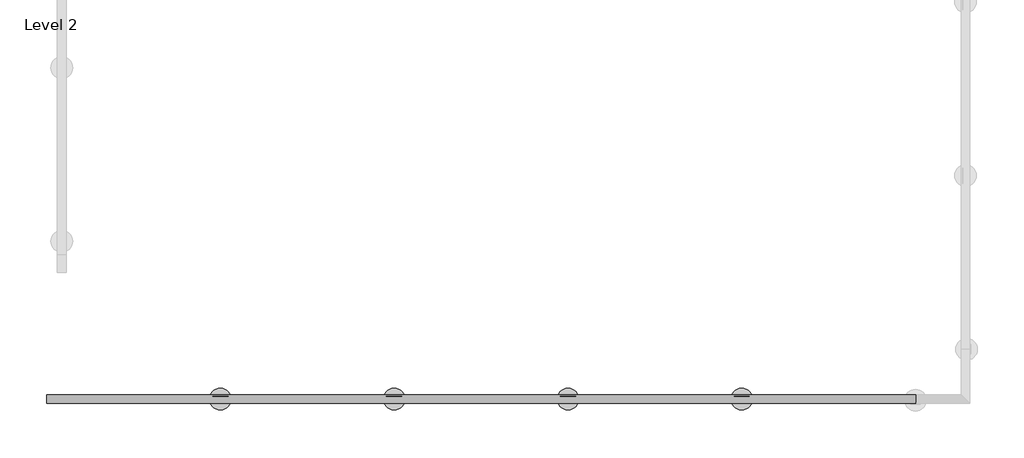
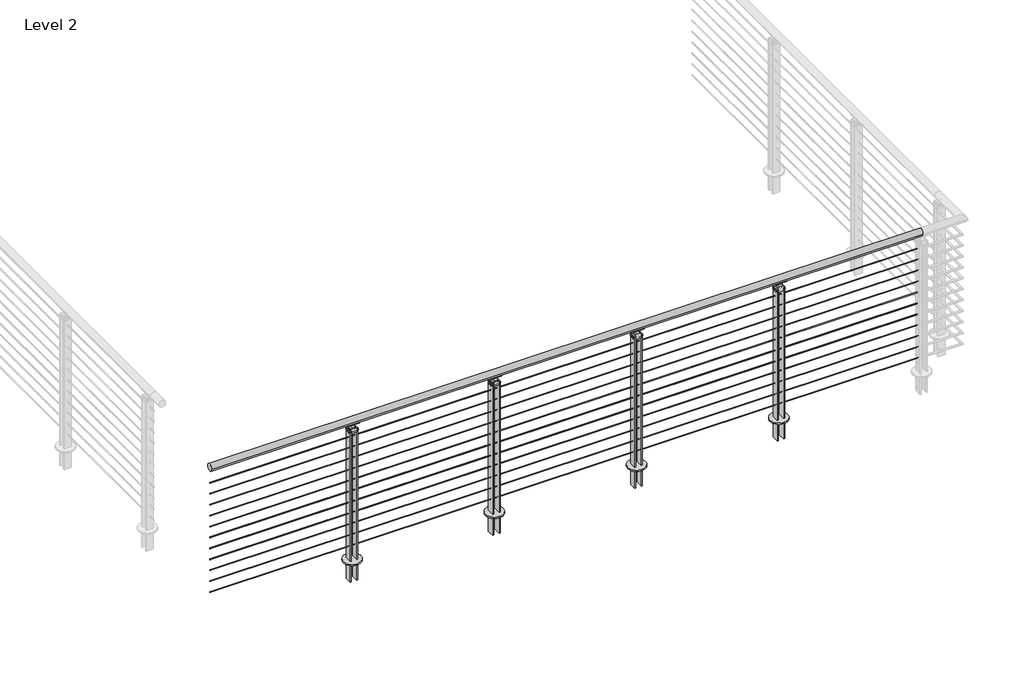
# One storey, part 28 of 31: 1 railing.
"""IFC4 building model written with IfcOpenShell, lengths in millimetres."""

from ifc_helpers import new_model, si_unit, point, frame, frame_2d, origin, place, context, project, spatial, polyline, circle_curve, trimmed, segment, composite_curve, outline, extrude, element, save
from ifc_brep_helpers import plane_surface, cylinder_surface, revolved_surface, advanced_brep

model = new_model("IFC4")

# Units and contexts
model_context = context("Model", 3, world=origin())
ifc_project = project(units=[si_unit("LENGTHUNIT", "METRE", prefix="MILLI")], contexts=[model_context])

# Site, building, storey
site = spatial("IfcSite", under=ifc_project)
building = spatial("IfcBuilding", under=site)
storey = spatial("IfcBuildingStorey", under=building, Name="Level 2", Elevation=3048.0)

# Railing
placement = place(None, origin())
element("IfcRailing", 1, ObjectType="VIVA-BLADE-Cable-Core Mount-Straight", at=placement, inside=storey, context=model_context, shape_type="SolidModel", body=[
    extrude(outline(composite_curve([segment(trimmed(circle_curve(frame_2d((-52104.7426165, 4102.1)), 25.4), [point((-52130.1426165, 4102.1))], [point((-52079.3426165, 4102.1))], False, "CARTESIAN"), True, "CONTINUOUS"), segment(trimmed(circle_curve(frame_2d((-52104.7426165, 4102.1)), 25.4), [point((-52079.3426165, 4102.1))], [point((-52130.1426165, 4102.1))], False, "CARTESIAN"), True, "CONTINUOUS")], self_intersect=False)), frame((65793.0310647, 0.0, 0.0), z_axis=(1.0, 0.0, 0.0), x_axis=(0.0, 1.0, 0.0)), (0.0, 0.0, 1.0), 5080.0),
    extrude(outline(composite_curve([segment(trimmed(circle_curve(frame_2d((-52104.7426165, 3985.4124)), 2.3876), [point((-52102.3550165, 3985.4124))], [point((-52107.1302165, 3985.4124))], False, "CARTESIAN"), True, "CONTINUOUS"), segment(trimmed(circle_curve(frame_2d((-52104.7426165, 3985.4124)), 2.3876), [point((-52107.1302165, 3985.4124))], [point((-52102.3550165, 3985.4124))], False, "CARTESIAN"), True, "CONTINUOUS")], self_intersect=False)), frame((65793.0310647, 0.0, 0.0), z_axis=(1.0, 0.0, 0.0), x_axis=(0.0, 1.0, 0.0)), (0.0, 0.0, 1.0), 5080.0),
    extrude(outline(composite_curve([segment(trimmed(circle_curve(frame_2d((-52104.7426165, 3902.8624)), 2.3876), [point((-52102.3550165, 3902.8624))], [point((-52107.1302165, 3902.8624))], False, "CARTESIAN"), True, "CONTINUOUS"), segment(trimmed(circle_curve(frame_2d((-52104.7426165, 3902.8624)), 2.3876), [point((-52107.1302165, 3902.8624))], [point((-52102.3550165, 3902.8624))], False, "CARTESIAN"), True, "CONTINUOUS")], self_intersect=False)), frame((65793.0310647, 0.0, 0.0), z_axis=(1.0, 0.0, 0.0), x_axis=(0.0, 1.0, 0.0)), (0.0, 0.0, 1.0), 5080.0),
    extrude(outline(composite_curve([segment(trimmed(circle_curve(frame_2d((-52104.7426165, 3820.3124)), 2.3876), [point((-52102.3550165, 3820.3124))], [point((-52107.1302165, 3820.3124))], False, "CARTESIAN"), True, "CONTINUOUS"), segment(trimmed(circle_curve(frame_2d((-52104.7426165, 3820.3124)), 2.3876), [point((-52107.1302165, 3820.3124))], [point((-52102.3550165, 3820.3124))], False, "CARTESIAN"), True, "CONTINUOUS")], self_intersect=False)), frame((65793.0310647, 0.0, 0.0), z_axis=(1.0, 0.0, 0.0), x_axis=(0.0, 1.0, 0.0)), (0.0, 0.0, 1.0), 5080.0),
    extrude(outline(composite_curve([segment(trimmed(circle_curve(frame_2d((-52104.7426165, 3737.7624)), 2.3876), [point((-52102.3550165, 3737.7624))], [point((-52107.1302165, 3737.7624))], False, "CARTESIAN"), True, "CONTINUOUS"), segment(trimmed(circle_curve(frame_2d((-52104.7426165, 3737.7624)), 2.3876), [point((-52107.1302165, 3737.7624))], [point((-52102.3550165, 3737.7624))], False, "CARTESIAN"), True, "CONTINUOUS")], self_intersect=False)), frame((65793.0310647, 0.0, 0.0), z_axis=(1.0, 0.0, 0.0), x_axis=(0.0, 1.0, 0.0)), (0.0, 0.0, 1.0), 5080.0),
    extrude(outline(composite_curve([segment(trimmed(circle_curve(frame_2d((-52104.7426165, 3655.2124)), 2.3876), [point((-52102.3550165, 3655.2124))], [point((-52107.1302165, 3655.2124))], False, "CARTESIAN"), True, "CONTINUOUS"), segment(trimmed(circle_curve(frame_2d((-52104.7426165, 3655.2124)), 2.3876), [point((-52107.1302165, 3655.2124))], [point((-52102.3550165, 3655.2124))], False, "CARTESIAN"), True, "CONTINUOUS")], self_intersect=False)), frame((65793.0310647, 0.0, 0.0), z_axis=(1.0, 0.0, 0.0), x_axis=(0.0, 1.0, 0.0)), (0.0, 0.0, 1.0), 5080.0),
    extrude(outline(composite_curve([segment(trimmed(circle_curve(frame_2d((-52104.7426165, 3572.6624)), 2.3876), [point((-52102.3550165, 3572.6624))], [point((-52107.1302165, 3572.6624))], False, "CARTESIAN"), True, "CONTINUOUS"), segment(trimmed(circle_curve(frame_2d((-52104.7426165, 3572.6624)), 2.3876), [point((-52107.1302165, 3572.6624))], [point((-52102.3550165, 3572.6624))], False, "CARTESIAN"), True, "CONTINUOUS")], self_intersect=False)), frame((65793.0310647, 0.0, 0.0), z_axis=(1.0, 0.0, 0.0), x_axis=(0.0, 1.0, 0.0)), (0.0, 0.0, 1.0), 5080.0),
    extrude(outline(composite_curve([segment(trimmed(circle_curve(frame_2d((-52104.7426165, 3490.1124)), 2.3876), [point((-52102.3550165, 3490.1124))], [point((-52107.1302165, 3490.1124))], False, "CARTESIAN"), True, "CONTINUOUS"), segment(trimmed(circle_curve(frame_2d((-52104.7426165, 3490.1124)), 2.3876), [point((-52107.1302165, 3490.1124))], [point((-52102.3550165, 3490.1124))], False, "CARTESIAN"), True, "CONTINUOUS")], self_intersect=False)), frame((65793.0310647, 0.0, 0.0), z_axis=(1.0, 0.0, 0.0), x_axis=(0.0, 1.0, 0.0)), (0.0, 0.0, 1.0), 5080.0),
    extrude(outline(composite_curve([segment(trimmed(circle_curve(frame_2d((-52104.7426165, 3407.5624)), 2.3876), [point((-52102.3550165, 3407.5624))], [point((-52107.1302165, 3407.5624))], False, "CARTESIAN"), True, "CONTINUOUS"), segment(trimmed(circle_curve(frame_2d((-52104.7426165, 3407.5624)), 2.3876), [point((-52107.1302165, 3407.5624))], [point((-52102.3550165, 3407.5624))], False, "CARTESIAN"), True, "CONTINUOUS")], self_intersect=False)), frame((65793.0310647, 0.0, 0.0), z_axis=(1.0, 0.0, 0.0), x_axis=(0.0, 1.0, 0.0)), (0.0, 0.0, 1.0), 5080.0),
    extrude(outline(composite_curve([segment(trimmed(circle_curve(frame_2d((-52104.7426165, 3325.0124)), 2.3876), [point((-52102.3550165, 3325.0124))], [point((-52107.1302165, 3325.0124))], False, "CARTESIAN"), True, "CONTINUOUS"), segment(trimmed(circle_curve(frame_2d((-52104.7426165, 3325.0124)), 2.3876), [point((-52107.1302165, 3325.0124))], [point((-52102.3550165, 3325.0124))], False, "CARTESIAN"), True, "CONTINUOUS")], self_intersect=False)), frame((65793.0310647, 0.0, 0.0), z_axis=(1.0, 0.0, 0.0), x_axis=(0.0, 1.0, 0.0)), (0.0, 0.0, 1.0), 5080.0),
    extrude(outline(composite_curve([segment(trimmed(circle_curve(frame_2d((-52104.7426165, 3242.4624)), 2.3876), [point((-52102.3550165, 3242.4624))], [point((-52107.1302165, 3242.4624))], False, "CARTESIAN"), True, "CONTINUOUS"), segment(trimmed(circle_curve(frame_2d((-52104.7426165, 3242.4624)), 2.3876), [point((-52107.1302165, 3242.4624))], [point((-52102.3550165, 3242.4624))], False, "CARTESIAN"), True, "CONTINUOUS")], self_intersect=False)), frame((65793.0310647, 0.0, 0.0), z_axis=(1.0, 0.0, 0.0), x_axis=(0.0, 1.0, 0.0)), (0.0, 0.0, 1.0), 5080.0),
    extrude(outline(composite_curve([segment(trimmed(circle_curve(frame_2d((-52104.7426165, 3159.9124)), 2.3876), [point((-52102.3550165, 3159.9124))], [point((-52107.1302165, 3159.9124))], False, "CARTESIAN"), True, "CONTINUOUS"), segment(trimmed(circle_curve(frame_2d((-52104.7426165, 3159.9124)), 2.3876), [point((-52107.1302165, 3159.9124))], [point((-52102.3550165, 3159.9124))], False, "CARTESIAN"), True, "CONTINUOUS")], self_intersect=False)), frame((65793.0310647, 0.0, 0.0), z_axis=(1.0, 0.0, 0.0), x_axis=(0.0, 1.0, 0.0)), (0.0, 0.0, 1.0), 5080.0),
    extrude(outline(polyline([(69829.956229, -52079.3428199), (69837.9810647, -52079.3428199), (69837.9810647, -52130.1451445), (69829.956229, -52130.1451445), (69829.956229, -52079.3428199)])), frame((0.0, 0.0, 2901.95), z_axis=(0.0, 0.0, 1.0), x_axis=(1.0, 0.0, 0.0)), (0.0, 0.0, 1.0), 146.05),
    extrude(outline(polyline([(69876.0810267, -52079.3428199), (69884.0820267, -52079.3428199), (69884.0820267, -52130.1451445), (69876.0810267, -52130.1451445), (69876.0810267, -52079.3428199)])), frame((0.0, 0.0, 2901.95), z_axis=(0.0, 0.0, 1.0), x_axis=(1.0, 0.0, 0.0)), (0.0, 0.0, 1.0), 146.05),
    extrude(outline(composite_curve([segment(trimmed(circle_curve(frame_2d((69857.0191279, -52104.7426165)), 63.4988059), [point((69857.0191279, -52168.2414225))], [point((69857.0191279, -52041.2438106))], False, "CARTESIAN"), True, "CONTINUOUS"), segment(trimmed(circle_curve(frame_2d((69857.0191279, -52104.7426165)), 63.4988059), [point((69857.0191279, -52041.2438106))], [point((69857.0191279, -52168.2414225))], False, "CARTESIAN"), True, "CONTINUOUS")], self_intersect=False)), frame((0.0, 0.0, 3048.0), z_axis=(0.0, 0.0, 1.0), x_axis=(1.0, 0.0, 0.0)), (0.0, 0.0, 1.0), 9.525),
    advanced_brep(
    [(69902.2684647, -52091.9824929, 4080.0967655), (69902.2684647, -52116.8545574, 4079.9535285), (69902.2684647, -52119.6634877, 4075.1267745), (69902.2684647, -52088.1465955, 4075.707533), (69811.7936647, -52091.9824929, 4080.0967655), (69811.7936647, -52088.1465955, 4075.707533), (69811.7936647, -52119.7772811, 4075.1893964), (69811.7936647, -52116.9415296, 4080.0018447)],
    [
        (0, 1, circle_curve(frame((69902.2684647, -52104.5462958, 4102.2115898), z_axis=(-1.0, 0.0, 0.0), x_axis=(0.0, 1.0, 0.0)), 25.4345159)),
        (1, 2, circle_curve(frame((69902.2684647, -52118.1861827, 4077.4993599), z_axis=(1.0, 0.0, 0.0), x_axis=(0.0, 1.0, 0.0)), 2.7949225)),
        (2, 3, circle_curve(frame((69902.2684647, -52104.4128327, 4102.9742164), z_axis=(1.0, 0.0, 0.0), x_axis=(0.0, 1.0, 0.0)), 31.75)),
        (3, 0, circle_curve(frame((69902.2684647, -52090.4349352, 4077.5784521), z_axis=(1.0, 0.0, 0.0), x_axis=(0.0, 1.0, 0.0)), 2.9558141)),
        (4, 5, circle_curve(frame((69811.7936647, -52090.4349352, 4077.5784521), z_axis=(-1.0, 0.0, 0.0), x_axis=(0.0, 1.0, 0.0)), 2.9558141)),
        (5, 6, circle_curve(frame((69811.7936647, -52104.4128327, 4102.9742164), z_axis=(-1.0, 0.0, 0.0), x_axis=(0.0, 1.0, 0.0)), 31.75)),
        (6, 7, circle_curve(frame((69811.7936647, -52118.1861827, 4077.4993599), z_axis=(-1.0, 0.0, 0.0), x_axis=(0.0, 1.0, 0.0)), 2.7949225)),
        (7, 4, circle_curve(frame((69811.7936647, -52104.5462958, 4102.2115898), z_axis=(1.0, 0.0, 0.0), x_axis=(0.0, 1.0, 0.0)), 25.4345159)),
        (0, 4),
        (7, 1),
        (6, 2),
        (5, 3),
    ],
    [
        plane_surface(frame((69902.2684647, -52079.1117799, 4102.2115898), z_axis=(1.0, 0.0, 0.0), x_axis=(0.0, 0.0, -1.0))),
        plane_surface(frame((69811.7936647, -52079.1117799, 4102.2115898), z_axis=(-1.0, 0.0, 0.0), x_axis=(0.0, 0.0, 1.0))),
        revolved_surface(polyline([(69811.7936647, -52079.1117799, 4102.2115898), (69902.2684647, -52079.1117799, 4102.2115898)]), (69811.7936647, -52104.5462958, 4102.2115898), (-1.0, 0.0, 0.0)),
        cylinder_surface(frame((69811.7936647, -52118.1861827, 4077.4993599), z_axis=(1.0, 0.0, 0.0), x_axis=(0.0, 1.0, 0.0)), 2.7949225),
        cylinder_surface(frame((69811.7936647, -52104.4128327, 4102.9742164), z_axis=(1.0, 0.0, 0.0), x_axis=(0.0, 1.0, 0.0)), 31.75),
        cylinder_surface(frame((69811.7936647, -52090.4349352, 4077.5784521), z_axis=(1.0, 0.0, 0.0), x_axis=(0.0, 1.0, 0.0)), 2.9558141),
    ],
    [
        (0, [[1, 2, 3, 4]]),
        (1, [[5, 6, 7, 8]]),
        (2, [[-1, 9, -8, 10]]),
        (3, [[-2, -10, -7, 11]]),
        (4, [[-3, -11, -6, 12]]),
        (5, [[-4, -12, -5, -9]]),
    ],
),
    extrude(outline(composite_curve([segment(trimmed(circle_curve(frame_2d((4062.4125, 69884.0989796)), 14.3679149), [point((4062.4125, 69869.7310647))], [point((4076.7804149, 69884.0989796))], True, "CARTESIAN"), True, "CONTINUOUS"), segment(polyline([(4076.7804149, 69884.0989796), (4076.7804149, 69829.9631499)]), True, "CONTINUOUS"), segment(trimmed(circle_curve(frame_2d((4062.4125, 69829.9631499)), 14.3679149), [point((4076.7804149, 69829.9631499))], [point((4062.4125, 69844.3310647))], True, "CARTESIAN"), True, "CONTINUOUS"), segment(polyline([(4062.4125, 69844.3310647), (4062.4125, 69869.7310647)]), True, "CONTINUOUS")], self_intersect=False)), frame((0.0, -52107.2826165, 0.0), z_axis=(0.0, 1.0, 0.0), x_axis=(0.0, 0.0, 1.0)), (0.0, 0.0, 1.0), 5.08),
    extrude(outline(polyline([(69829.956229, -52079.3428199), (69837.9810647, -52079.3428199), (69837.9810647, -52130.1451445), (69829.956229, -52130.1451445), (69829.956229, -52079.3428199)])), frame((0.0, 0.0, 3048.0), z_axis=(0.0, 0.0, 1.0), x_axis=(1.0, 0.0, 0.0)), (0.0, 0.0, 1.0), 996.95),
    extrude(outline(composite_curve([segment(trimmed(circle_curve(frame_2d((-52117.4450935, 4034.0416929)), 8.89), [point((-52126.3350935, 4034.0416929))], [point((-52108.5550935, 4034.0416929))], False, "CARTESIAN"), True, "CONTINUOUS"), segment(trimmed(circle_curve(frame_2d((-52117.4450935, 4034.0416929)), 8.89), [point((-52108.5550935, 4034.0416929))], [point((-52126.3350935, 4034.0416929))], False, "CARTESIAN"), True, "CONTINUOUS")], self_intersect=False)), frame((69825.2810647, 0.0, 0.0), z_axis=(1.0, 0.0, 0.0), x_axis=(0.0, 1.0, 0.0)), (0.0, 0.0, 1.0), 63.4880631),
    extrude(outline(composite_curve([segment(trimmed(circle_curve(frame_2d((-52092.0451955, 4034.0416929)), 8.89), [point((-52100.9351955, 4034.0416929))], [point((-52083.1551955, 4034.0416929))], False, "CARTESIAN"), True, "CONTINUOUS"), segment(trimmed(circle_curve(frame_2d((-52092.0451955, 4034.0416929)), 8.89), [point((-52083.1551955, 4034.0416929))], [point((-52100.9351955, 4034.0416929))], False, "CARTESIAN"), True, "CONTINUOUS")], self_intersect=False)), frame((69825.2810647, 0.0, 0.0), z_axis=(1.0, 0.0, 0.0), x_axis=(0.0, 1.0, 0.0)), (0.0, 0.0, 1.0), 63.4880631),
    extrude(outline(polyline([(4022.7123, 69837.9810647), (4022.7123, 69876.0810647), (4056.0625, 69876.0810647), (4062.4125, 69869.7310647), (4062.4125, 69844.3310647), (4056.0625, 69837.9810647), (4022.7123, 69837.9810647)])), frame((0.0, -52130.1451445, 0.0), z_axis=(0.0, 1.0, 0.0), x_axis=(0.0, 0.0, 1.0)), (0.0, 0.0, 1.0), 50.8025279),
    extrude(outline(polyline([(69876.0810267, -52079.3428199), (69884.0820267, -52079.3428199), (69884.0820267, -52130.1451445), (69876.0810267, -52130.1451445), (69876.0810267, -52079.3428199)])), frame((0.0, 0.0, 3048.0), z_axis=(0.0, 0.0, 1.0), x_axis=(1.0, 0.0, 0.0)), (0.0, 0.0, 1.0), 996.95),
    extrude(outline(polyline([(68813.956229, -52079.3428199), (68821.9810647, -52079.3428199), (68821.9810647, -52130.1451445), (68813.956229, -52130.1451445), (68813.956229, -52079.3428199)])), frame((0.0, 0.0, 2901.95), z_axis=(0.0, 0.0, 1.0), x_axis=(1.0, 0.0, 0.0)), (0.0, 0.0, 1.0), 146.05),
    extrude(outline(polyline([(68860.0810267, -52079.3428199), (68868.0820267, -52079.3428199), (68868.0820267, -52130.1451445), (68860.0810267, -52130.1451445), (68860.0810267, -52079.3428199)])), frame((0.0, 0.0, 2901.95), z_axis=(0.0, 0.0, 1.0), x_axis=(1.0, 0.0, 0.0)), (0.0, 0.0, 1.0), 146.05),
    extrude(outline(composite_curve([segment(trimmed(circle_curve(frame_2d((68841.0191279, -52104.7426165)), 63.4988059), [point((68841.0191279, -52168.2414225))], [point((68841.0191279, -52041.2438106))], False, "CARTESIAN"), True, "CONTINUOUS"), segment(trimmed(circle_curve(frame_2d((68841.0191279, -52104.7426165)), 63.4988059), [point((68841.0191279, -52041.2438106))], [point((68841.0191279, -52168.2414225))], False, "CARTESIAN"), True, "CONTINUOUS")], self_intersect=False)), frame((0.0, 0.0, 3048.0), z_axis=(0.0, 0.0, 1.0), x_axis=(1.0, 0.0, 0.0)), (0.0, 0.0, 1.0), 9.525),
    advanced_brep(
    [(68886.2684647, -52091.9824929, 4080.0967655), (68886.2684647, -52116.8545574, 4079.9535285), (68886.2684647, -52119.6634877, 4075.1267745), (68886.2684647, -52088.1465955, 4075.707533), (68795.7936647, -52091.9824929, 4080.0967655), (68795.7936647, -52088.1465955, 4075.707533), (68795.7936647, -52119.7772811, 4075.1893964), (68795.7936647, -52116.9415296, 4080.0018447)],
    [
        (0, 1, circle_curve(frame((68886.2684647, -52104.5462958, 4102.2115898), z_axis=(-1.0, 0.0, 0.0), x_axis=(0.0, 1.0, 0.0)), 25.4345159)),
        (1, 2, circle_curve(frame((68886.2684647, -52118.1861827, 4077.4993599), z_axis=(1.0, 0.0, 0.0), x_axis=(0.0, 1.0, 0.0)), 2.7949225)),
        (2, 3, circle_curve(frame((68886.2684647, -52104.4128327, 4102.9742164), z_axis=(1.0, 0.0, 0.0), x_axis=(0.0, 1.0, 0.0)), 31.75)),
        (3, 0, circle_curve(frame((68886.2684647, -52090.4349352, 4077.5784521), z_axis=(1.0, 0.0, 0.0), x_axis=(0.0, 1.0, 0.0)), 2.9558141)),
        (4, 5, circle_curve(frame((68795.7936647, -52090.4349352, 4077.5784521), z_axis=(-1.0, 0.0, 0.0), x_axis=(0.0, 1.0, 0.0)), 2.9558141)),
        (5, 6, circle_curve(frame((68795.7936647, -52104.4128327, 4102.9742164), z_axis=(-1.0, 0.0, 0.0), x_axis=(0.0, 1.0, 0.0)), 31.75)),
        (6, 7, circle_curve(frame((68795.7936647, -52118.1861827, 4077.4993599), z_axis=(-1.0, 0.0, 0.0), x_axis=(0.0, 1.0, 0.0)), 2.7949225)),
        (7, 4, circle_curve(frame((68795.7936647, -52104.5462958, 4102.2115898), z_axis=(1.0, 0.0, 0.0), x_axis=(0.0, 1.0, 0.0)), 25.4345159)),
        (0, 4),
        (7, 1),
        (6, 2),
        (5, 3),
    ],
    [
        plane_surface(frame((68886.2684647, -52079.1117799, 4102.2115898), z_axis=(1.0, 0.0, 0.0), x_axis=(0.0, 0.0, -1.0))),
        plane_surface(frame((68795.7936647, -52079.1117799, 4102.2115898), z_axis=(-1.0, 0.0, 0.0), x_axis=(0.0, 0.0, 1.0))),
        revolved_surface(polyline([(68795.7936647, -52079.1117799, 4102.2115898), (68886.2684647, -52079.1117799, 4102.2115898)]), (68795.7936647, -52104.5462958, 4102.2115898), (-1.0, 0.0, 0.0)),
        cylinder_surface(frame((68795.7936647, -52118.1861827, 4077.4993599), z_axis=(1.0, 0.0, 0.0), x_axis=(0.0, 1.0, 0.0)), 2.7949225),
        cylinder_surface(frame((68795.7936647, -52104.4128327, 4102.9742164), z_axis=(1.0, 0.0, 0.0), x_axis=(0.0, 1.0, 0.0)), 31.75),
        cylinder_surface(frame((68795.7936647, -52090.4349352, 4077.5784521), z_axis=(1.0, 0.0, 0.0), x_axis=(0.0, 1.0, 0.0)), 2.9558141),
    ],
    [
        (0, [[1, 2, 3, 4]]),
        (1, [[5, 6, 7, 8]]),
        (2, [[-1, 9, -8, 10]]),
        (3, [[-2, -10, -7, 11]]),
        (4, [[-3, -11, -6, 12]]),
        (5, [[-4, -12, -5, -9]]),
    ],
),
    extrude(outline(composite_curve([segment(trimmed(circle_curve(frame_2d((4062.4125, 68868.0989796)), 14.3679149), [point((4062.4125, 68853.7310647))], [point((4076.7804149, 68868.0989796))], True, "CARTESIAN"), True, "CONTINUOUS"), segment(polyline([(4076.7804149, 68868.0989796), (4076.7804149, 68813.9631499)]), True, "CONTINUOUS"), segment(trimmed(circle_curve(frame_2d((4062.4125, 68813.9631499)), 14.3679149), [point((4076.7804149, 68813.9631499))], [point((4062.4125, 68828.3310647))], True, "CARTESIAN"), True, "CONTINUOUS"), segment(polyline([(4062.4125, 68828.3310647), (4062.4125, 68853.7310647)]), True, "CONTINUOUS")], self_intersect=False)), frame((0.0, -52107.2826165, 0.0), z_axis=(0.0, 1.0, 0.0), x_axis=(0.0, 0.0, 1.0)), (0.0, 0.0, 1.0), 5.08),
    extrude(outline(polyline([(68813.956229, -52079.3428199), (68821.9810647, -52079.3428199), (68821.9810647, -52130.1451445), (68813.956229, -52130.1451445), (68813.956229, -52079.3428199)])), frame((0.0, 0.0, 3048.0), z_axis=(0.0, 0.0, 1.0), x_axis=(1.0, 0.0, 0.0)), (0.0, 0.0, 1.0), 996.95),
    extrude(outline(composite_curve([segment(trimmed(circle_curve(frame_2d((-52117.4450935, 4034.0416929)), 8.89), [point((-52126.3350935, 4034.0416929))], [point((-52108.5550935, 4034.0416929))], False, "CARTESIAN"), True, "CONTINUOUS"), segment(trimmed(circle_curve(frame_2d((-52117.4450935, 4034.0416929)), 8.89), [point((-52108.5550935, 4034.0416929))], [point((-52126.3350935, 4034.0416929))], False, "CARTESIAN"), True, "CONTINUOUS")], self_intersect=False)), frame((68809.2810647, 0.0, 0.0), z_axis=(1.0, 0.0, 0.0), x_axis=(0.0, 1.0, 0.0)), (0.0, 0.0, 1.0), 63.4880631),
    extrude(outline(composite_curve([segment(trimmed(circle_curve(frame_2d((-52092.0451955, 4034.0416929)), 8.89), [point((-52100.9351955, 4034.0416929))], [point((-52083.1551955, 4034.0416929))], False, "CARTESIAN"), True, "CONTINUOUS"), segment(trimmed(circle_curve(frame_2d((-52092.0451955, 4034.0416929)), 8.89), [point((-52083.1551955, 4034.0416929))], [point((-52100.9351955, 4034.0416929))], False, "CARTESIAN"), True, "CONTINUOUS")], self_intersect=False)), frame((68809.2810647, 0.0, 0.0), z_axis=(1.0, 0.0, 0.0), x_axis=(0.0, 1.0, 0.0)), (0.0, 0.0, 1.0), 63.4880631),
    extrude(outline(polyline([(4022.7123, 68821.9810647), (4022.7123, 68860.0810647), (4056.0625, 68860.0810647), (4062.4125, 68853.7310647), (4062.4125, 68828.3310647), (4056.0625, 68821.9810647), (4022.7123, 68821.9810647)])), frame((0.0, -52130.1451445, 0.0), z_axis=(0.0, 1.0, 0.0), x_axis=(0.0, 0.0, 1.0)), (0.0, 0.0, 1.0), 50.8025279),
    extrude(outline(polyline([(68860.0810267, -52079.3428199), (68868.0820267, -52079.3428199), (68868.0820267, -52130.1451445), (68860.0810267, -52130.1451445), (68860.0810267, -52079.3428199)])), frame((0.0, 0.0, 3048.0), z_axis=(0.0, 0.0, 1.0), x_axis=(1.0, 0.0, 0.0)), (0.0, 0.0, 1.0), 996.95),
    extrude(outline(polyline([(67797.956229, -52079.3428199), (67805.9810647, -52079.3428199), (67805.9810647, -52130.1451445), (67797.956229, -52130.1451445), (67797.956229, -52079.3428199)])), frame((0.0, 0.0, 2901.95), z_axis=(0.0, 0.0, 1.0), x_axis=(1.0, 0.0, 0.0)), (0.0, 0.0, 1.0), 146.05),
    extrude(outline(polyline([(67844.0810267, -52079.3428199), (67852.0820267, -52079.3428199), (67852.0820267, -52130.1451445), (67844.0810267, -52130.1451445), (67844.0810267, -52079.3428199)])), frame((0.0, 0.0, 2901.95), z_axis=(0.0, 0.0, 1.0), x_axis=(1.0, 0.0, 0.0)), (0.0, 0.0, 1.0), 146.05),
    extrude(outline(composite_curve([segment(trimmed(circle_curve(frame_2d((67825.0191279, -52104.7426165)), 63.4988059), [point((67825.0191279, -52168.2414225))], [point((67825.0191279, -52041.2438106))], False, "CARTESIAN"), True, "CONTINUOUS"), segment(trimmed(circle_curve(frame_2d((67825.0191279, -52104.7426165)), 63.4988059), [point((67825.0191279, -52041.2438106))], [point((67825.0191279, -52168.2414225))], False, "CARTESIAN"), True, "CONTINUOUS")], self_intersect=False)), frame((0.0, 0.0, 3048.0), z_axis=(0.0, 0.0, 1.0), x_axis=(1.0, 0.0, 0.0)), (0.0, 0.0, 1.0), 9.525),
    advanced_brep(
    [(67870.2684647, -52091.9824929, 4080.0967655), (67870.2684647, -52116.8545574, 4079.9535285), (67870.2684647, -52119.6634877, 4075.1267745), (67870.2684647, -52088.1465955, 4075.707533), (67779.7936647, -52091.9824929, 4080.0967655), (67779.7936647, -52088.1465955, 4075.707533), (67779.7936647, -52119.7772811, 4075.1893964), (67779.7936647, -52116.9415296, 4080.0018447)],
    [
        (0, 1, circle_curve(frame((67870.2684647, -52104.5462958, 4102.2115898), z_axis=(-1.0, 0.0, 0.0), x_axis=(0.0, 1.0, 0.0)), 25.4345159)),
        (1, 2, circle_curve(frame((67870.2684647, -52118.1861827, 4077.4993599), z_axis=(1.0, 0.0, 0.0), x_axis=(0.0, 1.0, 0.0)), 2.7949225)),
        (2, 3, circle_curve(frame((67870.2684647, -52104.4128327, 4102.9742164), z_axis=(1.0, 0.0, 0.0), x_axis=(0.0, 1.0, 0.0)), 31.75)),
        (3, 0, circle_curve(frame((67870.2684647, -52090.4349352, 4077.5784521), z_axis=(1.0, 0.0, 0.0), x_axis=(0.0, 1.0, 0.0)), 2.9558141)),
        (4, 5, circle_curve(frame((67779.7936647, -52090.4349352, 4077.5784521), z_axis=(-1.0, 0.0, 0.0), x_axis=(0.0, 1.0, 0.0)), 2.9558141)),
        (5, 6, circle_curve(frame((67779.7936647, -52104.4128327, 4102.9742164), z_axis=(-1.0, 0.0, 0.0), x_axis=(0.0, 1.0, 0.0)), 31.75)),
        (6, 7, circle_curve(frame((67779.7936647, -52118.1861827, 4077.4993599), z_axis=(-1.0, 0.0, 0.0), x_axis=(0.0, 1.0, 0.0)), 2.7949225)),
        (7, 4, circle_curve(frame((67779.7936647, -52104.5462958, 4102.2115898), z_axis=(1.0, 0.0, 0.0), x_axis=(0.0, 1.0, 0.0)), 25.4345159)),
        (0, 4),
        (7, 1),
        (6, 2),
        (5, 3),
    ],
    [
        plane_surface(frame((67870.2684647, -52079.1117799, 4102.2115898), z_axis=(1.0, 0.0, 0.0), x_axis=(0.0, 0.0, -1.0))),
        plane_surface(frame((67779.7936647, -52079.1117799, 4102.2115898), z_axis=(-1.0, 0.0, 0.0), x_axis=(0.0, 0.0, 1.0))),
        revolved_surface(polyline([(67779.7936647, -52079.1117799, 4102.2115898), (67870.2684647, -52079.1117799, 4102.2115898)]), (67779.7936647, -52104.5462958, 4102.2115898), (-1.0, 0.0, 0.0)),
        cylinder_surface(frame((67779.7936647, -52118.1861827, 4077.4993599), z_axis=(1.0, 0.0, 0.0), x_axis=(0.0, 1.0, 0.0)), 2.7949225),
        cylinder_surface(frame((67779.7936647, -52104.4128327, 4102.9742164), z_axis=(1.0, 0.0, 0.0), x_axis=(0.0, 1.0, 0.0)), 31.75),
        cylinder_surface(frame((67779.7936647, -52090.4349352, 4077.5784521), z_axis=(1.0, 0.0, 0.0), x_axis=(0.0, 1.0, 0.0)), 2.9558141),
    ],
    [
        (0, [[1, 2, 3, 4]]),
        (1, [[5, 6, 7, 8]]),
        (2, [[-1, 9, -8, 10]]),
        (3, [[-2, -10, -7, 11]]),
        (4, [[-3, -11, -6, 12]]),
        (5, [[-4, -12, -5, -9]]),
    ],
),
    extrude(outline(composite_curve([segment(trimmed(circle_curve(frame_2d((4062.4125, 67852.0989796)), 14.3679149), [point((4062.4125, 67837.7310647))], [point((4076.7804149, 67852.0989796))], True, "CARTESIAN"), True, "CONTINUOUS"), segment(polyline([(4076.7804149, 67852.0989796), (4076.7804149, 67797.9631499)]), True, "CONTINUOUS"), segment(trimmed(circle_curve(frame_2d((4062.4125, 67797.9631499)), 14.3679149), [point((4076.7804149, 67797.9631499))], [point((4062.4125, 67812.3310647))], True, "CARTESIAN"), True, "CONTINUOUS"), segment(polyline([(4062.4125, 67812.3310647), (4062.4125, 67837.7310647)]), True, "CONTINUOUS")], self_intersect=False)), frame((0.0, -52107.2826165, 0.0), z_axis=(0.0, 1.0, 0.0), x_axis=(0.0, 0.0, 1.0)), (0.0, 0.0, 1.0), 5.08),
    extrude(outline(polyline([(67797.956229, -52079.3428199), (67805.9810647, -52079.3428199), (67805.9810647, -52130.1451445), (67797.956229, -52130.1451445), (67797.956229, -52079.3428199)])), frame((0.0, 0.0, 3048.0), z_axis=(0.0, 0.0, 1.0), x_axis=(1.0, 0.0, 0.0)), (0.0, 0.0, 1.0), 996.95),
    extrude(outline(composite_curve([segment(trimmed(circle_curve(frame_2d((-52117.4450935, 4034.0416929)), 8.89), [point((-52126.3350935, 4034.0416929))], [point((-52108.5550935, 4034.0416929))], False, "CARTESIAN"), True, "CONTINUOUS"), segment(trimmed(circle_curve(frame_2d((-52117.4450935, 4034.0416929)), 8.89), [point((-52108.5550935, 4034.0416929))], [point((-52126.3350935, 4034.0416929))], False, "CARTESIAN"), True, "CONTINUOUS")], self_intersect=False)), frame((67793.2810647, 0.0, 0.0), z_axis=(1.0, 0.0, 0.0), x_axis=(0.0, 1.0, 0.0)), (0.0, 0.0, 1.0), 63.4880631),
    extrude(outline(composite_curve([segment(trimmed(circle_curve(frame_2d((-52092.0451955, 4034.0416929)), 8.89), [point((-52100.9351955, 4034.0416929))], [point((-52083.1551955, 4034.0416929))], False, "CARTESIAN"), True, "CONTINUOUS"), segment(trimmed(circle_curve(frame_2d((-52092.0451955, 4034.0416929)), 8.89), [point((-52083.1551955, 4034.0416929))], [point((-52100.9351955, 4034.0416929))], False, "CARTESIAN"), True, "CONTINUOUS")], self_intersect=False)), frame((67793.2810647, 0.0, 0.0), z_axis=(1.0, 0.0, 0.0), x_axis=(0.0, 1.0, 0.0)), (0.0, 0.0, 1.0), 63.4880631),
    extrude(outline(polyline([(4022.7123, 67805.9810647), (4022.7123, 67844.0810647), (4056.0625, 67844.0810647), (4062.4125, 67837.7310647), (4062.4125, 67812.3310647), (4056.0625, 67805.9810647), (4022.7123, 67805.9810647)])), frame((0.0, -52130.1451445, 0.0), z_axis=(0.0, 1.0, 0.0), x_axis=(0.0, 0.0, 1.0)), (0.0, 0.0, 1.0), 50.8025279),
    extrude(outline(polyline([(67844.0810267, -52079.3428199), (67852.0820267, -52079.3428199), (67852.0820267, -52130.1451445), (67844.0810267, -52130.1451445), (67844.0810267, -52079.3428199)])), frame((0.0, 0.0, 3048.0), z_axis=(0.0, 0.0, 1.0), x_axis=(1.0, 0.0, 0.0)), (0.0, 0.0, 1.0), 996.95),
    extrude(outline(polyline([(66781.956229, -52079.3428199), (66789.9810647, -52079.3428199), (66789.9810647, -52130.1451445), (66781.956229, -52130.1451445), (66781.956229, -52079.3428199)])), frame((0.0, 0.0, 2901.95), z_axis=(0.0, 0.0, 1.0), x_axis=(1.0, 0.0, 0.0)), (0.0, 0.0, 1.0), 146.05),
    extrude(outline(polyline([(66828.0810267, -52079.3428199), (66836.0820267, -52079.3428199), (66836.0820267, -52130.1451445), (66828.0810267, -52130.1451445), (66828.0810267, -52079.3428199)])), frame((0.0, 0.0, 2901.95), z_axis=(0.0, 0.0, 1.0), x_axis=(1.0, 0.0, 0.0)), (0.0, 0.0, 1.0), 146.05),
    extrude(outline(composite_curve([segment(trimmed(circle_curve(frame_2d((66809.0191279, -52104.7426165)), 63.4988059), [point((66809.0191279, -52168.2414225))], [point((66809.0191279, -52041.2438106))], False, "CARTESIAN"), True, "CONTINUOUS"), segment(trimmed(circle_curve(frame_2d((66809.0191279, -52104.7426165)), 63.4988059), [point((66809.0191279, -52041.2438106))], [point((66809.0191279, -52168.2414225))], False, "CARTESIAN"), True, "CONTINUOUS")], self_intersect=False)), frame((0.0, 0.0, 3048.0), z_axis=(0.0, 0.0, 1.0), x_axis=(1.0, 0.0, 0.0)), (0.0, 0.0, 1.0), 9.525),
    advanced_brep(
    [(66854.2684647, -52091.9824929, 4080.0967655), (66854.2684647, -52116.8545574, 4079.9535285), (66854.2684647, -52119.6634877, 4075.1267745), (66854.2684647, -52088.1465955, 4075.707533), (66763.7936647, -52091.9824929, 4080.0967655), (66763.7936647, -52088.1465955, 4075.707533), (66763.7936647, -52119.7772811, 4075.1893964), (66763.7936647, -52116.9415296, 4080.0018447)],
    [
        (0, 1, circle_curve(frame((66854.2684647, -52104.5462958, 4102.2115898), z_axis=(-1.0, 0.0, 0.0), x_axis=(0.0, 1.0, 0.0)), 25.4345159)),
        (1, 2, circle_curve(frame((66854.2684647, -52118.1861827, 4077.4993599), z_axis=(1.0, 0.0, 0.0), x_axis=(0.0, 1.0, 0.0)), 2.7949225)),
        (2, 3, circle_curve(frame((66854.2684647, -52104.4128327, 4102.9742164), z_axis=(1.0, 0.0, 0.0), x_axis=(0.0, 1.0, 0.0)), 31.75)),
        (3, 0, circle_curve(frame((66854.2684647, -52090.4349352, 4077.5784521), z_axis=(1.0, 0.0, 0.0), x_axis=(0.0, 1.0, 0.0)), 2.9558141)),
        (4, 5, circle_curve(frame((66763.7936647, -52090.4349352, 4077.5784521), z_axis=(-1.0, 0.0, 0.0), x_axis=(0.0, 1.0, 0.0)), 2.9558141)),
        (5, 6, circle_curve(frame((66763.7936647, -52104.4128327, 4102.9742164), z_axis=(-1.0, 0.0, 0.0), x_axis=(0.0, 1.0, 0.0)), 31.75)),
        (6, 7, circle_curve(frame((66763.7936647, -52118.1861827, 4077.4993599), z_axis=(-1.0, 0.0, 0.0), x_axis=(0.0, 1.0, 0.0)), 2.7949225)),
        (7, 4, circle_curve(frame((66763.7936647, -52104.5462958, 4102.2115898), z_axis=(1.0, 0.0, 0.0), x_axis=(0.0, 1.0, 0.0)), 25.4345159)),
        (0, 4),
        (7, 1),
        (6, 2),
        (5, 3),
    ],
    [
        plane_surface(frame((66854.2684647, -52079.1117799, 4102.2115898), z_axis=(1.0, 0.0, 0.0), x_axis=(0.0, 0.0, -1.0))),
        plane_surface(frame((66763.7936647, -52079.1117799, 4102.2115898), z_axis=(-1.0, 0.0, 0.0), x_axis=(0.0, 0.0, 1.0))),
        revolved_surface(polyline([(66763.7936647, -52079.1117799, 4102.2115898), (66854.2684647, -52079.1117799, 4102.2115898)]), (66763.7936647, -52104.5462958, 4102.2115898), (-1.0, 0.0, 0.0)),
        cylinder_surface(frame((66763.7936647, -52118.1861827, 4077.4993599), z_axis=(1.0, 0.0, 0.0), x_axis=(0.0, 1.0, 0.0)), 2.7949225),
        cylinder_surface(frame((66763.7936647, -52104.4128327, 4102.9742164), z_axis=(1.0, 0.0, 0.0), x_axis=(0.0, 1.0, 0.0)), 31.75),
        cylinder_surface(frame((66763.7936647, -52090.4349352, 4077.5784521), z_axis=(1.0, 0.0, 0.0), x_axis=(0.0, 1.0, 0.0)), 2.9558141),
    ],
    [
        (0, [[1, 2, 3, 4]]),
        (1, [[5, 6, 7, 8]]),
        (2, [[-1, 9, -8, 10]]),
        (3, [[-2, -10, -7, 11]]),
        (4, [[-3, -11, -6, 12]]),
        (5, [[-4, -12, -5, -9]]),
    ],
),
    extrude(outline(composite_curve([segment(trimmed(circle_curve(frame_2d((4062.4125, 66836.0989796)), 14.3679149), [point((4062.4125, 66821.7310647))], [point((4076.7804149, 66836.0989796))], True, "CARTESIAN"), True, "CONTINUOUS"), segment(polyline([(4076.7804149, 66836.0989796), (4076.7804149, 66781.9631499)]), True, "CONTINUOUS"), segment(trimmed(circle_curve(frame_2d((4062.4125, 66781.9631499)), 14.3679149), [point((4076.7804149, 66781.9631499))], [point((4062.4125, 66796.3310647))], True, "CARTESIAN"), True, "CONTINUOUS"), segment(polyline([(4062.4125, 66796.3310647), (4062.4125, 66821.7310647)]), True, "CONTINUOUS")], self_intersect=False)), frame((0.0, -52107.2826165, 0.0), z_axis=(0.0, 1.0, 0.0), x_axis=(0.0, 0.0, 1.0)), (0.0, 0.0, 1.0), 5.08),
    extrude(outline(polyline([(66781.956229, -52079.3428199), (66789.9810647, -52079.3428199), (66789.9810647, -52130.1451445), (66781.956229, -52130.1451445), (66781.956229, -52079.3428199)])), frame((0.0, 0.0, 3048.0), z_axis=(0.0, 0.0, 1.0), x_axis=(1.0, 0.0, 0.0)), (0.0, 0.0, 1.0), 996.95),
    extrude(outline(composite_curve([segment(trimmed(circle_curve(frame_2d((-52117.4450935, 4034.0416929)), 8.89), [point((-52126.3350935, 4034.0416929))], [point((-52108.5550935, 4034.0416929))], False, "CARTESIAN"), True, "CONTINUOUS"), segment(trimmed(circle_curve(frame_2d((-52117.4450935, 4034.0416929)), 8.89), [point((-52108.5550935, 4034.0416929))], [point((-52126.3350935, 4034.0416929))], False, "CARTESIAN"), True, "CONTINUOUS")], self_intersect=False)), frame((66777.2810647, 0.0, 0.0), z_axis=(1.0, 0.0, 0.0), x_axis=(0.0, 1.0, 0.0)), (0.0, 0.0, 1.0), 63.4880631),
    extrude(outline(composite_curve([segment(trimmed(circle_curve(frame_2d((-52092.0451955, 4034.0416929)), 8.89), [point((-52100.9351955, 4034.0416929))], [point((-52083.1551955, 4034.0416929))], False, "CARTESIAN"), True, "CONTINUOUS"), segment(trimmed(circle_curve(frame_2d((-52092.0451955, 4034.0416929)), 8.89), [point((-52083.1551955, 4034.0416929))], [point((-52100.9351955, 4034.0416929))], False, "CARTESIAN"), True, "CONTINUOUS")], self_intersect=False)), frame((66777.2810647, 0.0, 0.0), z_axis=(1.0, 0.0, 0.0), x_axis=(0.0, 1.0, 0.0)), (0.0, 0.0, 1.0), 63.4880631),
    extrude(outline(polyline([(4022.7123, 66789.9810647), (4022.7123, 66828.0810647), (4056.0625, 66828.0810647), (4062.4125, 66821.7310647), (4062.4125, 66796.3310647), (4056.0625, 66789.9810647), (4022.7123, 66789.9810647)])), frame((0.0, -52130.1451445, 0.0), z_axis=(0.0, 1.0, 0.0), x_axis=(0.0, 0.0, 1.0)), (0.0, 0.0, 1.0), 50.8025279),
    extrude(outline(polyline([(66828.0810267, -52079.3428199), (66836.0820267, -52079.3428199), (66836.0820267, -52130.1451445), (66828.0810267, -52130.1451445), (66828.0810267, -52079.3428199)])), frame((0.0, 0.0, 3048.0), z_axis=(0.0, 0.0, 1.0), x_axis=(1.0, 0.0, 0.0)), (0.0, 0.0, 1.0), 996.95),
])

save(model, "model.ifc")
